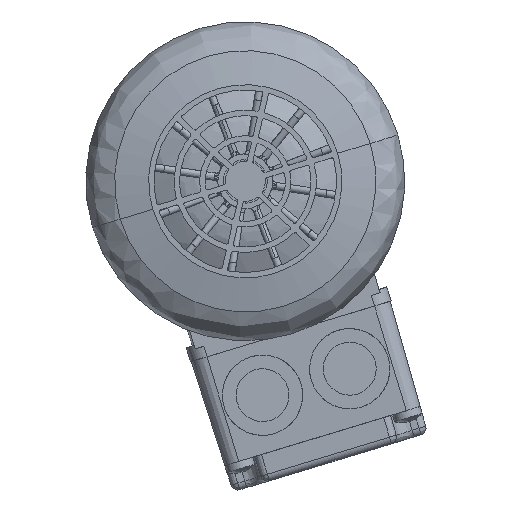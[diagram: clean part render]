
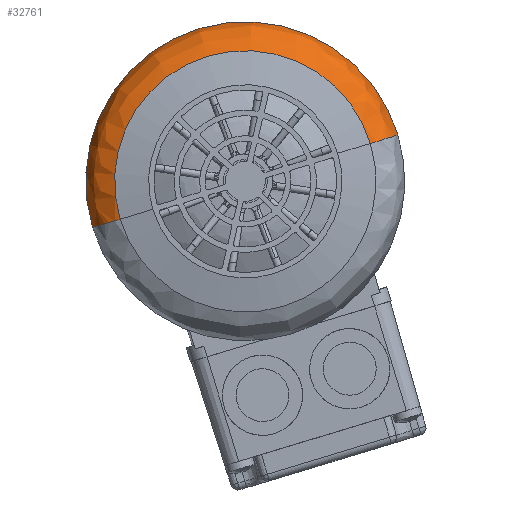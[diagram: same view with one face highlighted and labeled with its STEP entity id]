
A CAD part, left-side view. The second image highlights one B-rep face of the part: STEP entity #32761.
In plain terms, the highlighted free-form (B-spline) face has degree [3, 3] with [4, 4] control points.
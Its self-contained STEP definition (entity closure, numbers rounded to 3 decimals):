
#5423 = CARTESIAN_POINT ( 'NONE',  ( 0., 0., -141.517 ) ) ;
#5612 = ORIENTED_EDGE ( 'NONE', *, *, #8598, .F. ) ;
#8396 = EDGE_CURVE ( 'NONE', #48831, #76991, #45335, .T. ) ;
#8598 = EDGE_CURVE ( 'NONE', #48831, #60142, #82388, .T. ) ;
#12183 = DIRECTION ( 'NONE',  ( 1., 0., 0. ) ) ;
#15086 = CIRCLE ( 'NONE', #22186, 35.829 ) ;
#18600 = CIRCLE ( 'NONE', #53444, 10. ) ;
#22186 = AXIS2_PLACEMENT_3D ( 'NONE', #5423, #52206, #12183 ) ;
#26028 = CARTESIAN_POINT ( 'NONE',  ( 35.829, 0., -141.517 ) ) ;
#26037 = CARTESIAN_POINT ( 'NONE',  ( 35.829, -71.658, -141.517 ) ) ;
#26146 = CARTESIAN_POINT ( 'NONE',  ( -35.829, -71.658, -141.517 ) ) ;
#26234 = CARTESIAN_POINT ( 'NONE',  ( -35.829, 0., -141.517 ) ) ;
#26254 = CARTESIAN_POINT ( 'NONE',  ( 40.649, 0., -140.493 ) ) ;
#26322 = CARTESIAN_POINT ( 'NONE',  ( 40.649, -81.298, -140.493 ) ) ;
#26516 = CARTESIAN_POINT ( 'NONE',  ( -40.649, -81.298, -140.493 ) ) ;
#26537 = CARTESIAN_POINT ( 'NONE',  ( -40.649, 0., -140.493 ) ) ;
#26623 = CARTESIAN_POINT ( 'NONE',  ( 43.75, 0., -136.663 ) ) ;
#26631 = CARTESIAN_POINT ( 'NONE',  ( 43.75, -87.5, -136.663 ) ) ;
#26734 = CARTESIAN_POINT ( 'NONE',  ( -43.75, -87.5, -136.663 ) ) ;
#26801 = CARTESIAN_POINT ( 'NONE',  ( -43.75, 0., -136.663 ) ) ;
#26822 = CARTESIAN_POINT ( 'NONE',  ( 43.75, 0., -131.736 ) ) ;
#26893 = CARTESIAN_POINT ( 'NONE',  ( 43.75, -87.5, -131.736 ) ) ;
#26905 = CARTESIAN_POINT ( 'NONE',  ( -43.75, -87.5, -131.736 ) ) ;
#27502 = ORIENTED_EDGE ( 'NONE', *, *, #8396, .T. ) ;
#28371 = DIRECTION ( 'NONE',  ( 1., 0., 0. ) ) ;
#28382 = CARTESIAN_POINT ( 'NONE',  ( -43.75, 0., -131.736 ) ) ;
#29886 = EDGE_LOOP ( 'NONE', ( #5612, #27502, #77883, #60327 ) ) ;
#30532 = FACE_OUTER_BOUND ( 'NONE', #29886, .T. ) ;
#32761 = ADVANCED_FACE ( 'NONE', ( #30532 ), #41385, .T. ) ;
#37489 = DIRECTION ( 'NONE',  ( 0., 1., 0. ) ) ;
#41385 =( BOUNDED_SURFACE ( )  B_SPLINE_SURFACE ( 3, 3, ( 
 ( #28382, #26905, #26893, #26822 ),
 ( #26801, #26734, #26631, #26623 ),
 ( #26537, #26516, #26322, #26254 ),
 ( #26234, #26146, #26037, #26028 ) ),
 .UNSPECIFIED., .F., .F., .F. ) 
 B_SPLINE_SURFACE_WITH_KNOTS ( ( 4, 4 ),
 ( 4, 4 ),
 ( 0., 1. ),
 ( 0., 1. ),
 .UNSPECIFIED. ) 
 GEOMETRIC_REPRESENTATION_ITEM ( )  RATIONAL_B_SPLINE_SURFACE ( (
 ( 1., 0.333, 0.333, 1.),
 ( 0.851, 0.284, 0.284, 0.851),
 ( 0.851, 0.284, 0.284, 0.851),
 ( 1., 0.333, 0.333, 1.) ) ) 
 REPRESENTATION_ITEM ( '' )  SURFACE ( )  );
#45335 = CIRCLE ( 'NONE', #77371, 10. ) ;
#47600 = AXIS2_PLACEMENT_3D ( 'NONE', #50622, #50553, #28371 ) ;
#48831 = VERTEX_POINT ( 'NONE', #62008 ) ;
#50553 = DIRECTION ( 'NONE',  ( 0., 0., 1. ) ) ;
#50622 = CARTESIAN_POINT ( 'NONE',  ( 0., 0., -131.736 ) ) ;
#52206 = DIRECTION ( 'NONE',  ( 0., 0., 1. ) ) ;
#53444 = AXIS2_PLACEMENT_3D ( 'NONE', #77064, #37489, #83739 ) ;
#59180 = CARTESIAN_POINT ( 'NONE',  ( 43.75, 0., -131.736 ) ) ;
#60142 = VERTEX_POINT ( 'NONE', #59180 ) ;
#60327 = ORIENTED_EDGE ( 'NONE', *, *, #66992, .F. ) ;
#62008 = CARTESIAN_POINT ( 'NONE',  ( -43.75, 0., -131.736 ) ) ;
#62774 = DIRECTION ( 'NONE',  ( -1., 0., 0. ) ) ;
#62789 = DIRECTION ( 'NONE',  ( 0., -1., 0. ) ) ;
#62897 = CARTESIAN_POINT ( 'NONE',  ( -33.75, 0., -131.736 ) ) ;
#66834 = CARTESIAN_POINT ( 'NONE',  ( 35.829, 0., -141.517 ) ) ;
#66992 = EDGE_CURVE ( 'NONE', #60142, #70107, #18600, .T. ) ;
#68602 = EDGE_CURVE ( 'NONE', #76991, #70107, #15086, .T. ) ;
#70107 = VERTEX_POINT ( 'NONE', #66834 ) ;
#72625 = CARTESIAN_POINT ( 'NONE',  ( -35.829, 0., -141.517 ) ) ;
#76991 = VERTEX_POINT ( 'NONE', #72625 ) ;
#77064 = CARTESIAN_POINT ( 'NONE',  ( 33.75, 0., -131.736 ) ) ;
#77371 = AXIS2_PLACEMENT_3D ( 'NONE', #62897, #62789, #62774 ) ;
#77883 = ORIENTED_EDGE ( 'NONE', *, *, #68602, .T. ) ;
#82388 = CIRCLE ( 'NONE', #47600, 43.75 ) ;
#83739 = DIRECTION ( 'NONE',  ( 1., 0., 0. ) ) ;
